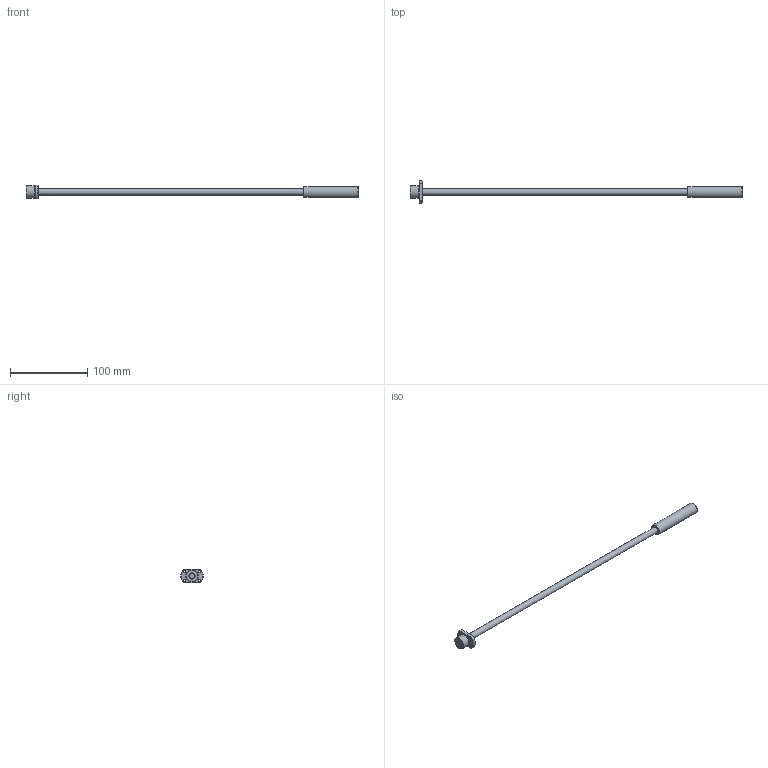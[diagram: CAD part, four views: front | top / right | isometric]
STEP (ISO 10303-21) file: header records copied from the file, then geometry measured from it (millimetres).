
FILE_DESCRIPTION( ( 'STEP AP203' ), '1' );
FILE_NAME( 'e:/temp/worker_65/temp/exporttempdir_236_505_DexMY/format_0/SRT0802.5-356R430C10A0X(0None).stp', '2021-10-19T05:31:47', ( 'License CC BY-ND 4.0' ), ( 'CADENAS' ), ' ', 'PARTsolutions', ' ' );
FILE_SCHEMA( ( 'CONFIG_CONTROL_DESIGN' ) );
Length unit declared in the file: millimetre
Products named in the file (3): SRT0802.5-356R430C10A0X(0None); _SRT0802.5-356R430ACt10NoneShaft; _SRT0802.5Nut
Assembly tree (2 placements, depth 2):
  SRT0802.5-356R430C10A0X(0None)
    _SRT0802.5-356R430ACt10NoneShaft
    _SRT0802.5Nut
Bounding box: 430 x 29 x 18 mm (x, y, z)
Volume: 32549.9 mm3; surface area: 14749 mm2
Topology: 2 solids, 2 shells, 27 faces, 61 edges, 41 vertices
Faces by surface type: cylinder 11, plane 9, cone 7
Full cylindrical faces by diameter (mm): 3.4 x4, 8 x2, 14.2 x1, 15.7 x1, 16 x1
Entity records: 812 total; most frequent: CARTESIAN_POINT 136, DIRECTION 126, ORIENTED_EDGE 90, AXIS2_PLACEMENT_3D 59, EDGE_LOOP 52, EDGE_CURVE 45, VERTEX_POINT 37, FACE_OUTER_BOUND 36
